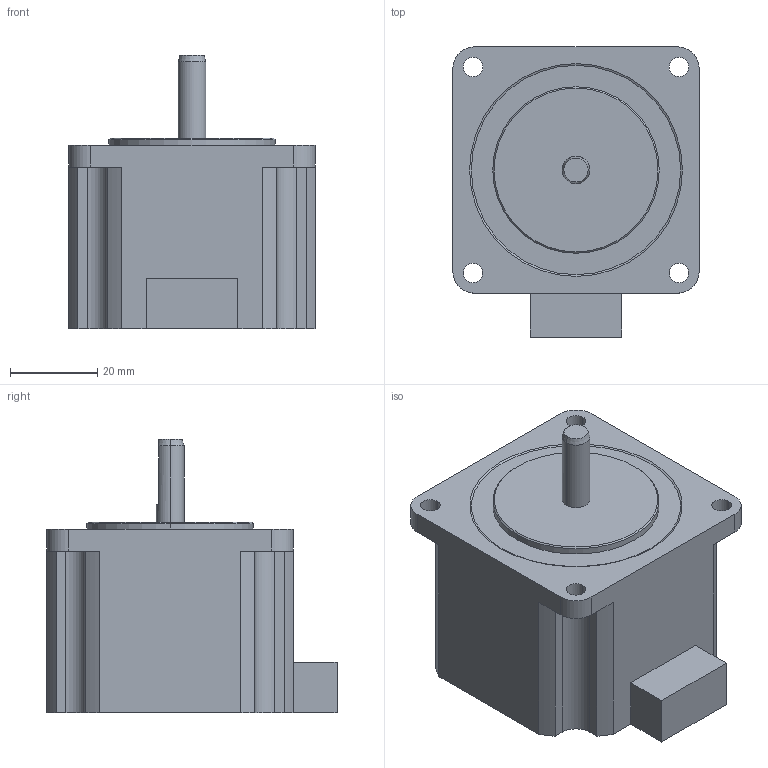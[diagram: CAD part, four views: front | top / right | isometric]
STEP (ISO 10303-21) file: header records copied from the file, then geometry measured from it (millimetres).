
FILE_DESCRIPTION (( 'STEP AP203' ), '1' );
FILE_NAME ('PMSA-U56D1_3D.STEP', '2016-11-15T04:55:04', ( 'SKJ00869' ), ( '' ), 'SwSTEP 2.0', 'SolidWorks 2014', '' );
FILE_SCHEMA (( 'CONFIG_CONTROL_DESIGN' ));
Length unit declared in the file: millimetre
Products named in the file (1): PMSA-U56D1_3D
Bounding box: 56.4 x 66.4 x 62.6 mm (x, y, z)
Volume: 125974.7 mm3; surface area: 16409.5 mm2
Topology: 1 solids, 1 shells, 62 faces, 167 edges, 110 vertices
Faces by surface type: cylinder 28, plane 27, cone 7
Entity records: 2065 total; most frequent: DIRECTION 358, CARTESIAN_POINT 350, ORIENTED_EDGE 334, EDGE_CURVE 167, AXIS2_PLACEMENT_3D 130, VERTEX_POINT 110, VECTOR 98, LINE 98
